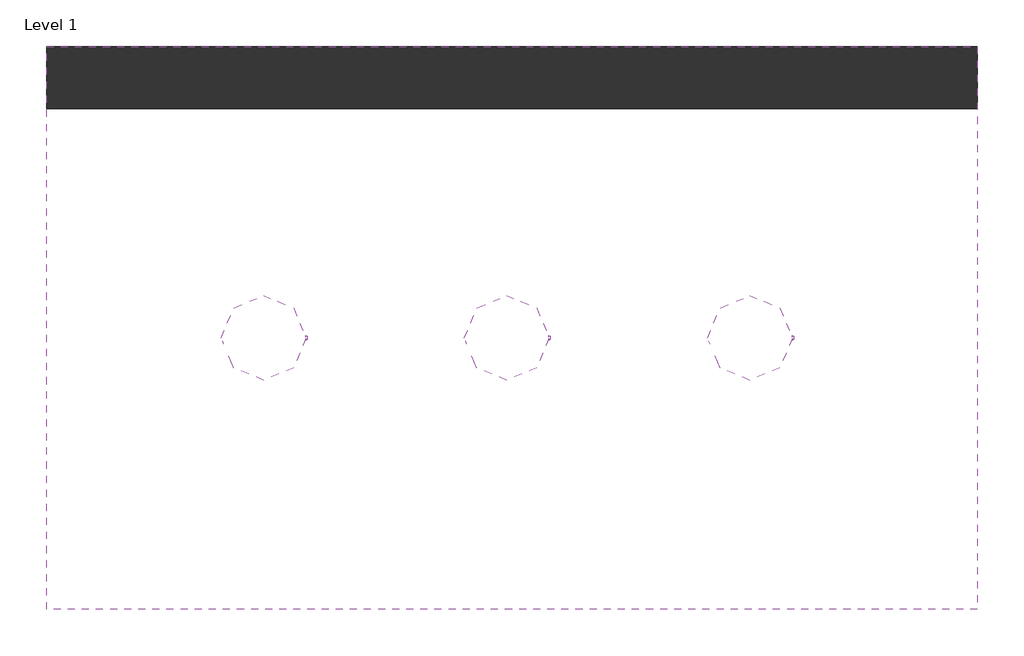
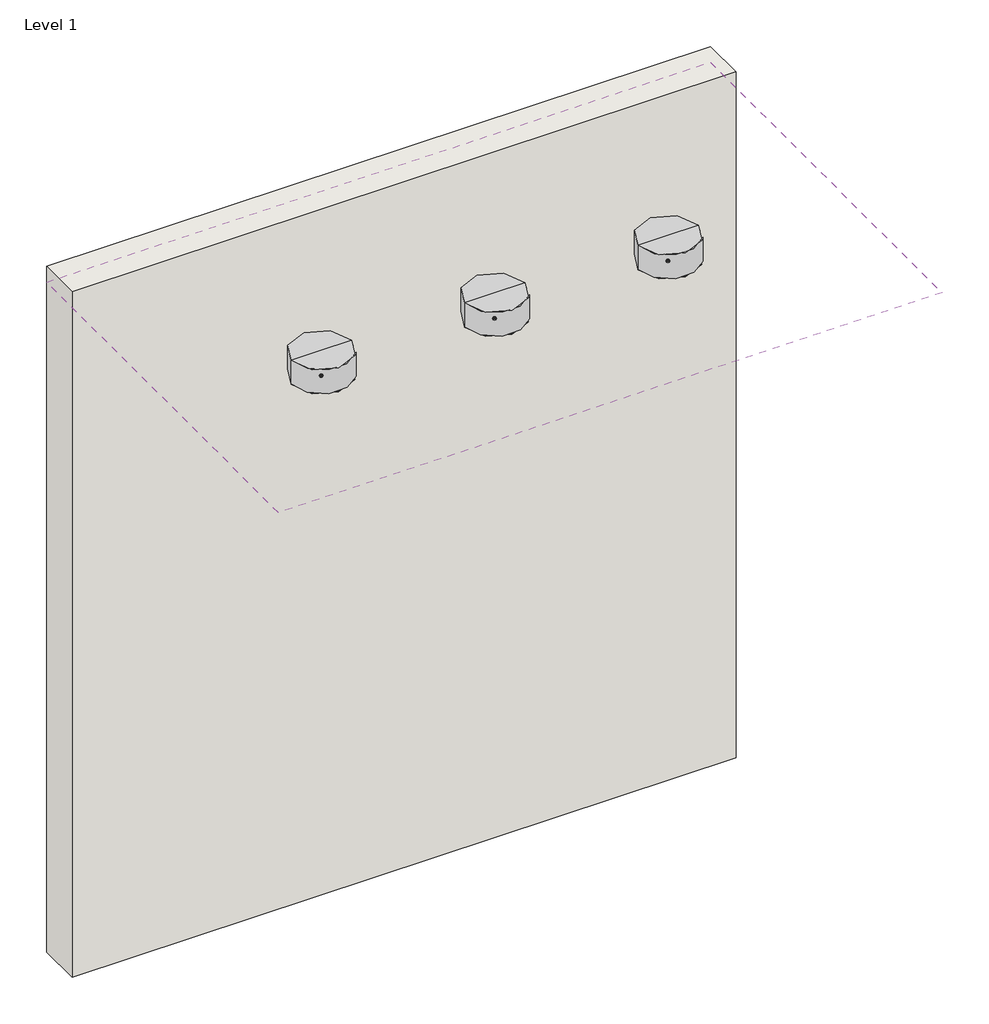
# One storey: 3 proxies, 1 covering, 1 wall.
"""IFC4 building model written with IfcOpenShell, lengths in millimetres."""

from ifc_helpers import new_model, si_unit, frame, origin, origin_with_axes, place, context, project, spatial, polyline, outline, extrude, transform, mapped, element, save
from components import communication_devices_0a137ea0

model = new_model("IFC4")

# Units and contexts
model_context = context("Model", 3, world=origin())
ifc_project = project(units=[si_unit("LENGTHUNIT", "METRE", prefix="MILLI")], contexts=[model_context])

# Site, building, storey
site = spatial("IfcSite", under=ifc_project)
building = spatial("IfcBuilding", under=site)
storey = spatial("IfcBuildingStorey", under=building, Name="Level 1", Elevation=0.0)

# Proxies
placement = place(None, origin())
communication_devices_shape = communication_devices_0a137ea0(model_context)
element("IfcBuildingElementProxy", 1, Name="DL-A 10-200T-EN54 : DL-A 10-200/T-EN54", ObjectType="DL-A 10-200T-EN54 : DL-A 10-200/T-EN54", at=placement, inside=storey, context=model_context, shape_type="MappedRepresentation", body=[
    mapped(communication_devices_shape, transform((2366.1306576, 1399.3766815, 2438.4), x_axis=(-1.0, 0.0, 0.0), y_axis=(0.0, -1.0, 0.0), z_axis=(0.0, 0.0, 1.0))),
])
element("IfcBuildingElementProxy", 2, Name="DL-A 10-200T-EN54 : DL-A 10-200/T-EN54", ObjectType="DL-A 10-200T-EN54 : DL-A 10-200/T-EN54", at=placement, inside=storey, context=model_context, shape_type="MappedRepresentation", body=[
    mapped(communication_devices_shape, transform((2963.3306576, 1399.3766815, 2438.4), x_axis=(-1.0, 0.0, 0.0), y_axis=(0.0, -1.0, 0.0), z_axis=(0.0, 0.0, 1.0))),
])
element("IfcBuildingElementProxy", 3, Name="DL-A 10-200T-EN54 : DL-A 10-200/T-EN54", ObjectType="DL-A 10-200T-EN54 : DL-A 10-200/T-EN54", at=placement, inside=storey, context=model_context, shape_type="MappedRepresentation", body=[
    mapped(communication_devices_shape, transform((3560.5306576, 1399.3766815, 2438.4), x_axis=(-1.0, 0.0, 0.0), y_axis=(0.0, -1.0, 0.0), z_axis=(0.0, 0.0, 1.0))),
])

# Covering
element("IfcCovering", 4, ObjectType="2' x 4' ACT System", at=placement, inside=storey, context=model_context, shape_type="SweptSolid", body=[
    extrude(outline(polyline([(4119.1973575, 2115.5766815), (4119.1973575, 732.2741036), (1833.1973575, 732.2741036), (1833.1973575, 2115.5766815), (4119.1973575, 2115.5766815)])), frame((0.0, 0.0, 2438.4), z_axis=(0.0, 0.0, 1.0), x_axis=(1.0, 0.0, 0.0)), (0.0, 0.0, 1.0), 57.15),
])

# Wall
element("IfcWall", 5, ObjectType="Exterior - 6\" Generic", at=placement, inside=storey, context=model_context, shape_type="SweptSolid", body=[
    extrude(outline(polyline([(4119.1973575, 1963.1766815), (1833.1973575, 1963.1766815), (1833.1973575, 2115.5766815), (4119.1973575, 2115.5766815), (4119.1973575, 1963.1766815)])), origin_with_axes(), (0.0, 0.0, 1.0), 2495.55),
])

save(model, "model.ifc")
